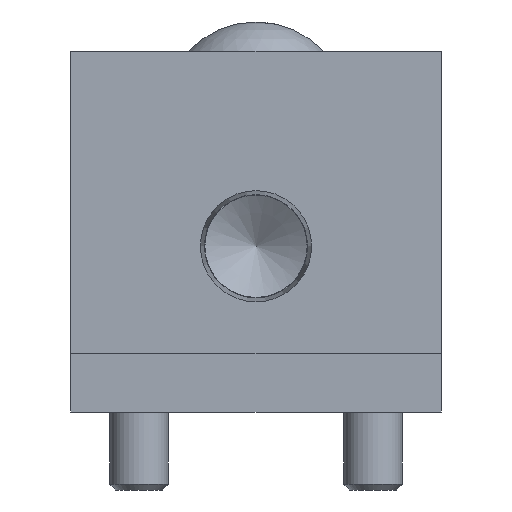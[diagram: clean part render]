
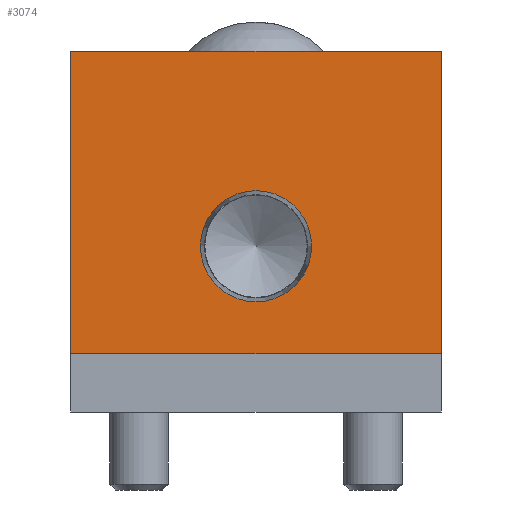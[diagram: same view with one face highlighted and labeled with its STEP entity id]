
A CAD part, front view. The second image highlights one B-rep face of the part: STEP entity #3074.
In plain terms, the highlighted planar face has unit normal (0, -1, 0).
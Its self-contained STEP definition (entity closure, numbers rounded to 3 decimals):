
#226=FACE_BOUND('',#638,.T.);
#330=CIRCLE('',#3291,5.704);
#427=FACE_OUTER_BOUND('',#637,.T.);
#637=EDGE_LOOP('',(#2057,#2058,#2059,#2060));
#638=EDGE_LOOP('',(#2061));
#950=LINE('',#4490,#1168);
#965=LINE('',#4521,#1183);
#966=LINE('',#4523,#1184);
#967=LINE('',#4524,#1185);
#1168=VECTOR('',#3618,31.);
#1183=VECTOR('',#3641,38.);
#1184=VECTOR('',#3642,38.);
#1185=VECTOR('',#3643,31.);
#1383=VERTEX_POINT('',#4483);
#1386=VERTEX_POINT('',#4488);
#1396=VERTEX_POINT('',#4512);
#1399=VERTEX_POINT('',#4522);
#1400=VERTEX_POINT('',#4525);
#1663=EDGE_CURVE('',#1383,#1386,#950,.T.);
#1678=EDGE_CURVE('',#1383,#1396,#965,.T.);
#1679=EDGE_CURVE('',#1386,#1399,#966,.T.);
#1680=EDGE_CURVE('',#1396,#1399,#967,.T.);
#1681=EDGE_CURVE('',#1400,#1400,#330,.T.);
#2057=ORIENTED_EDGE('',*,*,#1678,.F.);
#2058=ORIENTED_EDGE('',*,*,#1663,.T.);
#2059=ORIENTED_EDGE('',*,*,#1679,.T.);
#2060=ORIENTED_EDGE('',*,*,#1680,.F.);
#2061=ORIENTED_EDGE('',*,*,#1681,.T.);
#2795=PLANE('',#3290);
#3074=ADVANCED_FACE('',(#427,#226),#2795,.T.);
#3290=AXIS2_PLACEMENT_3D('',#4520,#3639,#3640);
#3291=AXIS2_PLACEMENT_3D('',#4526,#3644,#3645);
#3618=DIRECTION('',(0.,0.,1.));
#3639=DIRECTION('center_axis',(0.,-1.,0.));
#3640=DIRECTION('ref_axis',(0.,0.,-1.));
#3641=DIRECTION('',(-1.,0.,0.));
#3642=DIRECTION('',(-1.,0.,0.));
#3643=DIRECTION('',(0.,0.,1.));
#3644=DIRECTION('center_axis',(0.,1.,0.));
#3645=DIRECTION('ref_axis',(1.,0.,0.));
#4483=CARTESIAN_POINT('',(19.,0.,6.));
#4488=CARTESIAN_POINT('',(19.,0.,37.));
#4490=CARTESIAN_POINT('',(19.,0.,0.));
#4512=CARTESIAN_POINT('',(-19.,0.,6.));
#4520=CARTESIAN_POINT('Origin',(19.,0.,0.));
#4521=CARTESIAN_POINT('',(0.,0.,6.));
#4522=CARTESIAN_POINT('',(-19.,0.,37.));
#4523=CARTESIAN_POINT('',(19.,0.,37.));
#4524=CARTESIAN_POINT('',(-19.,0.,0.));
#4525=CARTESIAN_POINT('',(5.704,0.,17.));
#4526=CARTESIAN_POINT('Origin',(0.,0.,17.));
